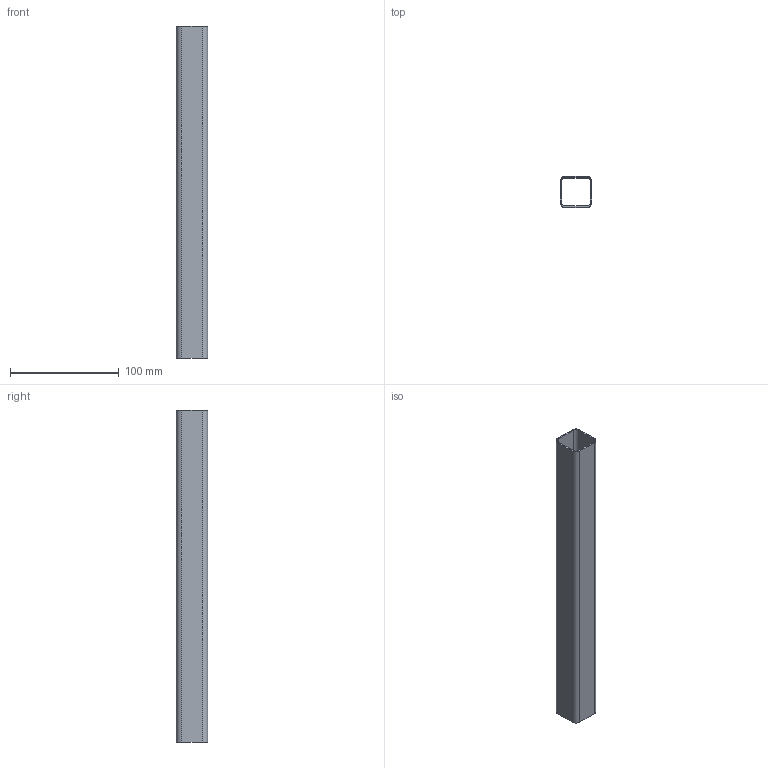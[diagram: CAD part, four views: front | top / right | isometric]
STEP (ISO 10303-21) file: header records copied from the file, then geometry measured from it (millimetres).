
FILE_DESCRIPTION (( 'STEP AP214' ), '1' );
FILE_NAME ('DRP-002-0001-01.STEP', '2011-12-06T22:13:21', ( 'Allred & Associates' ), ( 'Allred & Associates' ), 'SwSTEP 2.0', 'SolidWorks 2011', '' );
FILE_SCHEMA (( 'AUTOMOTIVE_DESIGN' ));
Length unit declared in the file: inch
Products named in the file (1): DRP-002-0001-01
Bounding box: 28.75 x 28.75 x 304.8 mm (x, y, z)
Volume: 39758.2 mm3; surface area: 62872.1 mm2
Topology: 1 solids, 1 shells, 18 faces, 48 edges, 32 vertices
Faces by surface type: plane 10, cylinder 8
Entity records: 612 total; most frequent: DIRECTION 102, CARTESIAN_POINT 99, ORIENTED_EDGE 96, EDGE_CURVE 48, AXIS2_PLACEMENT_3D 35, LINE 32, VECTOR 32, VERTEX_POINT 32
